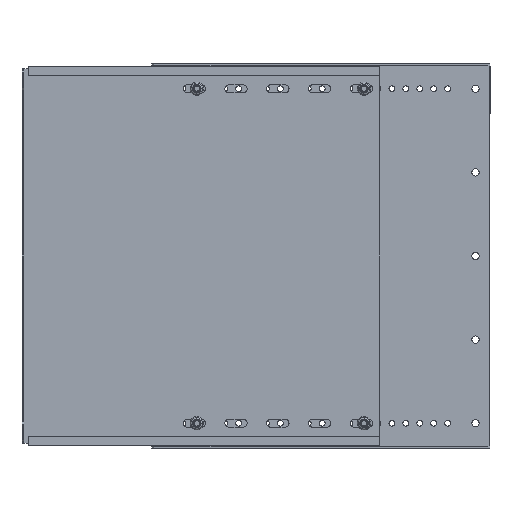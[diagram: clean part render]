
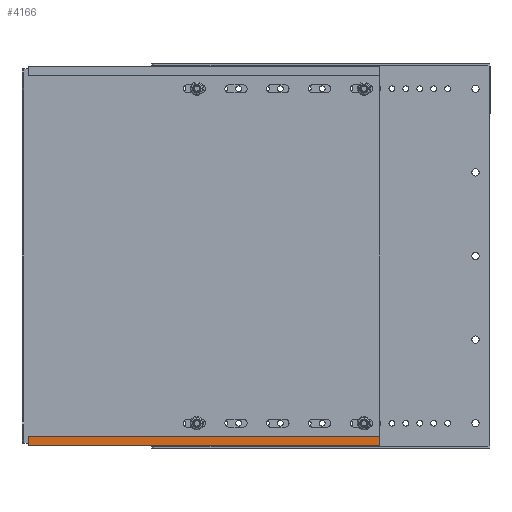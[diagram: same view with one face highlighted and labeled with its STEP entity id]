
A CAD part, front view. The second image highlights one B-rep face of the part: STEP entity #4166.
In plain terms, the highlighted planar face has unit normal (0, -1, 0).
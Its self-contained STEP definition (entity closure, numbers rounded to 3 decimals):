
#46 = CARTESIAN_POINT ( 'NONE',  ( -256.25, -1.6, -161.7 ) ) ;
#249 = LINE ( 'NONE', #7317, #2797 ) ;
#336 = DIRECTION ( 'NONE',  ( 0., 0., 1. ) ) ;
#386 = CARTESIAN_POINT ( 'NONE',  ( -413.75, -1.6, -170.25 ) ) ;
#472 = DIRECTION ( 'NONE',  ( 0., 0., -1. ) ) ;
#1317 = VERTEX_POINT ( 'NONE', #6768 ) ;
#1366 = CARTESIAN_POINT ( 'NONE',  ( -98.75, -1.6, -170.25 ) ) ;
#1708 = DIRECTION ( 'NONE',  ( 0., -1., 0. ) ) ;
#2168 = EDGE_CURVE ( 'NONE', #5769, #2659, #5419, .T. ) ;
#2539 = VECTOR ( 'NONE', #4140, 1000. ) ;
#2587 = LINE ( 'NONE', #46, #6800 ) ;
#2659 = VERTEX_POINT ( 'NONE', #1366 ) ;
#2797 = VECTOR ( 'NONE', #6494, 1000. ) ;
#3342 = CARTESIAN_POINT ( 'NONE',  ( -422.845, -1.6, -170.25 ) ) ;
#3629 = FACE_OUTER_BOUND ( 'NONE', #6283, .T. ) ;
#3851 = ORIENTED_EDGE ( 'NONE', *, *, #6546, .F. ) ;
#4140 = DIRECTION ( 'NONE',  ( 1., 0., 0. ) ) ;
#4166 = ADVANCED_FACE ( 'NONE', ( #3629 ), #5573, .T. ) ;
#4893 = AXIS2_PLACEMENT_3D ( 'NONE', #6920, #1708, #472 ) ;
#4987 = CARTESIAN_POINT ( 'NONE',  ( -413.75, -1.6, -165.2 ) ) ;
#5075 = VECTOR ( 'NONE', #336, 1000. ) ;
#5419 = LINE ( 'NONE', #3342, #2539 ) ;
#5573 = PLANE ( 'NONE',  #4893 ) ;
#5769 = VERTEX_POINT ( 'NONE', #386 ) ;
#5895 = ORIENTED_EDGE ( 'NONE', *, *, #8071, .F. ) ;
#6100 = CARTESIAN_POINT ( 'NONE',  ( -413.75, -1.6, -161.7 ) ) ;
#6262 = DIRECTION ( 'NONE',  ( 1., 0., 0. ) ) ;
#6283 = EDGE_LOOP ( 'NONE', ( #3851, #5895, #6502, #6425 ) ) ;
#6425 = ORIENTED_EDGE ( 'NONE', *, *, #7762, .F. ) ;
#6494 = DIRECTION ( 'NONE',  ( 0., 0., -1. ) ) ;
#6502 = ORIENTED_EDGE ( 'NONE', *, *, #2168, .T. ) ;
#6546 = EDGE_CURVE ( 'NONE', #8033, #1317, #2587, .T. ) ;
#6768 = CARTESIAN_POINT ( 'NONE',  ( -98.75, -1.6, -161.7 ) ) ;
#6800 = VECTOR ( 'NONE', #6262, 1000. ) ;
#6805 = LINE ( 'NONE', #4987, #5075 ) ;
#6920 = CARTESIAN_POINT ( 'NONE',  ( -256.25, -1.6, -165.2 ) ) ;
#7317 = CARTESIAN_POINT ( 'NONE',  ( -98.75, -1.6, -165.2 ) ) ;
#7762 = EDGE_CURVE ( 'NONE', #1317, #2659, #249, .T. ) ;
#8033 = VERTEX_POINT ( 'NONE', #6100 ) ;
#8071 = EDGE_CURVE ( 'NONE', #5769, #8033, #6805, .T. ) ;
